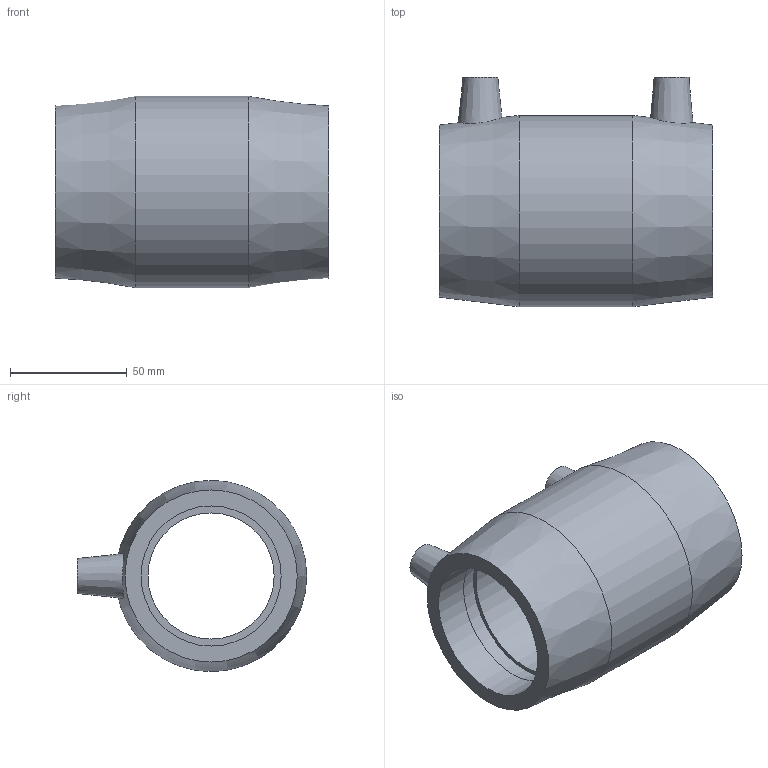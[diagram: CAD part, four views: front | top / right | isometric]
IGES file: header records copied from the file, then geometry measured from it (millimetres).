
Global section: file name: 4911N4063050.ipt; native system: Autodesk Inventor 2019; preprocessor: unknown; author: KIM; date: 20210830.100813; units: inch
Bounding box: 117.09 x 98.42 x 82.04 mm (x, y, z)
Volume: 241435.4 mm3; surface area: 59641.5 mm2
Topology: 1 solids, 1 shells, 29 faces, 68 edges, 49 vertices
Faces by surface type: plane 12, revolution 10, cone 4, cylinder 3
Full cylindrical faces by diameter (mm): 4 x2, 82.042 x1
